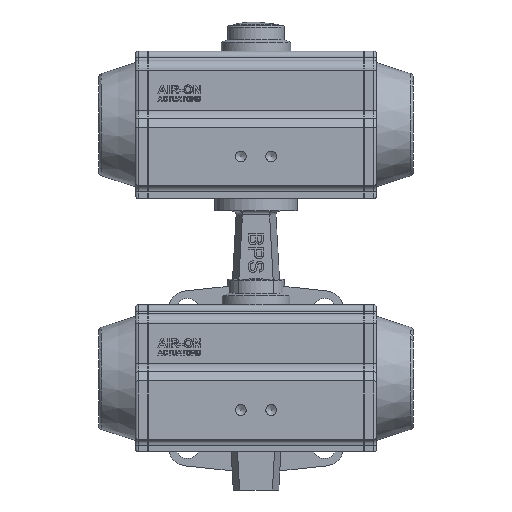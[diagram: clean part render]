
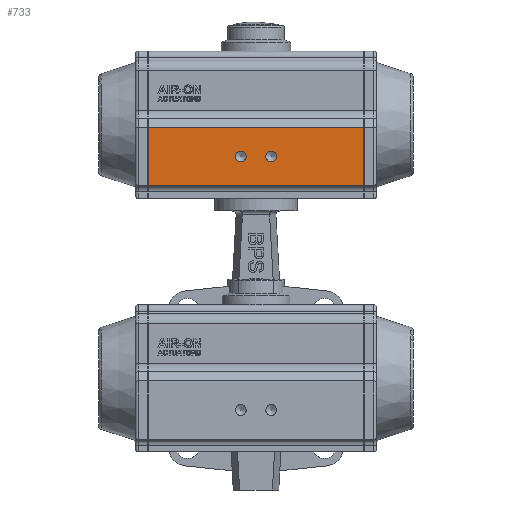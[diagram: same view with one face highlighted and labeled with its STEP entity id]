
A CAD part, front view. The second image highlights one B-rep face of the part: STEP entity #733.
In plain terms, the highlighted planar face has unit normal (0, -1, 0).
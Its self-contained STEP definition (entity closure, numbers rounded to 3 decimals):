
#733 = ADVANCED_FACE( '', ( #1905, #1906, #1907 ), #1908, .T. );
#1905 = FACE_BOUND( '', #3690, .T. );
#1906 = FACE_BOUND( '', #3691, .T. );
#1907 = FACE_OUTER_BOUND( '', #3692, .T. );
#1908 = PLANE( '', #3693 );
#3690 = EDGE_LOOP( '', ( #6726 ) );
#3691 = EDGE_LOOP( '', ( #6727 ) );
#3692 = EDGE_LOOP( '', ( #6728, #6729, #6730, #6731 ) );
#3693 = AXIS2_PLACEMENT_3D( '', #6732, #6733, #6734 );
#6726 = ORIENTED_EDGE( '', *, *, #11562, .T. );
#6727 = ORIENTED_EDGE( '', *, *, #11563, .T. );
#6728 = ORIENTED_EDGE( '', *, *, #11137, .F. );
#6729 = ORIENTED_EDGE( '', *, *, #11564, .F. );
#6730 = ORIENTED_EDGE( '', *, *, #11565, .T. );
#6731 = ORIENTED_EDGE( '', *, *, #11566, .T. );
#6732 = CARTESIAN_POINT( '', ( 85., -58.5, -48. ) );
#6733 = DIRECTION( '', ( 0., -1., 0. ) );
#6734 = DIRECTION( '', ( 0., 0., -1. ) );
#11137 = EDGE_CURVE( '', #12911, #12913, #12914, .T. );
#11562 = EDGE_CURVE( '', #13655, #13655, #13656, .T. );
#11563 = EDGE_CURVE( '', #13657, #13657, #13658, .T. );
#11564 = EDGE_CURVE( '', #13659, #12911, #13660, .T. );
#11565 = EDGE_CURVE( '', #13659, #13661, #13662, .T. );
#11566 = EDGE_CURVE( '', #13661, #12913, #13663, .T. );
#12911 = VERTEX_POINT( '', #15674 );
#12913 = VERTEX_POINT( '', #15677 );
#12914 = LINE( '', #15678, #15679 );
#13655 = VERTEX_POINT( '', #17523 );
#13656 = CIRCLE( '', #17524, 4.283 );
#13657 = VERTEX_POINT( '', #17525 );
#13658 = CIRCLE( '', #17526, 4.283 );
#13659 = VERTEX_POINT( '', #17527 );
#13660 = LINE( '', #17528, #17529 );
#13661 = VERTEX_POINT( '', #17530 );
#13662 = LINE( '', #17531, #17532 );
#13663 = LINE( '', #17533, #17534 );
#15674 = CARTESIAN_POINT( '', ( -85., -58.5, -48. ) );
#15677 = CARTESIAN_POINT( '', ( -85., -58.5, -2. ) );
#15678 = CARTESIAN_POINT( '', ( -85., -58.5, -48. ) );
#15679 = VECTOR( '', #22519, 1000. );
#17523 = CARTESIAN_POINT( '', ( -12., -58.5, -29.283 ) );
#17524 = AXIS2_PLACEMENT_3D( '', #23024, #23025, #23026 );
#17525 = CARTESIAN_POINT( '', ( 12., -58.5, -29.283 ) );
#17526 = AXIS2_PLACEMENT_3D( '', #23027, #23028, #23029 );
#17527 = CARTESIAN_POINT( '', ( 85., -58.5, -48. ) );
#17528 = CARTESIAN_POINT( '', ( 85., -58.5, -48. ) );
#17529 = VECTOR( '', #23030, 1000. );
#17530 = CARTESIAN_POINT( '', ( 85., -58.5, -2. ) );
#17531 = CARTESIAN_POINT( '', ( 85., -58.5, -48. ) );
#17532 = VECTOR( '', #23031, 1000. );
#17533 = CARTESIAN_POINT( '', ( 85., -58.5, -2. ) );
#17534 = VECTOR( '', #23032, 1000. );
#22519 = DIRECTION( '', ( 0., 0., 1. ) );
#23024 = CARTESIAN_POINT( '', ( -12., -58.5, -25. ) );
#23025 = DIRECTION( '', ( 0., 1., 0. ) );
#23026 = DIRECTION( '', ( 0., 0., -1. ) );
#23027 = CARTESIAN_POINT( '', ( 12., -58.5, -25. ) );
#23028 = DIRECTION( '', ( 0., 1., 0. ) );
#23029 = DIRECTION( '', ( 0., 0., -1. ) );
#23030 = DIRECTION( '', ( -1., 0., 0. ) );
#23031 = DIRECTION( '', ( 0., 0., 1. ) );
#23032 = DIRECTION( '', ( -1., 0., 0. ) );
